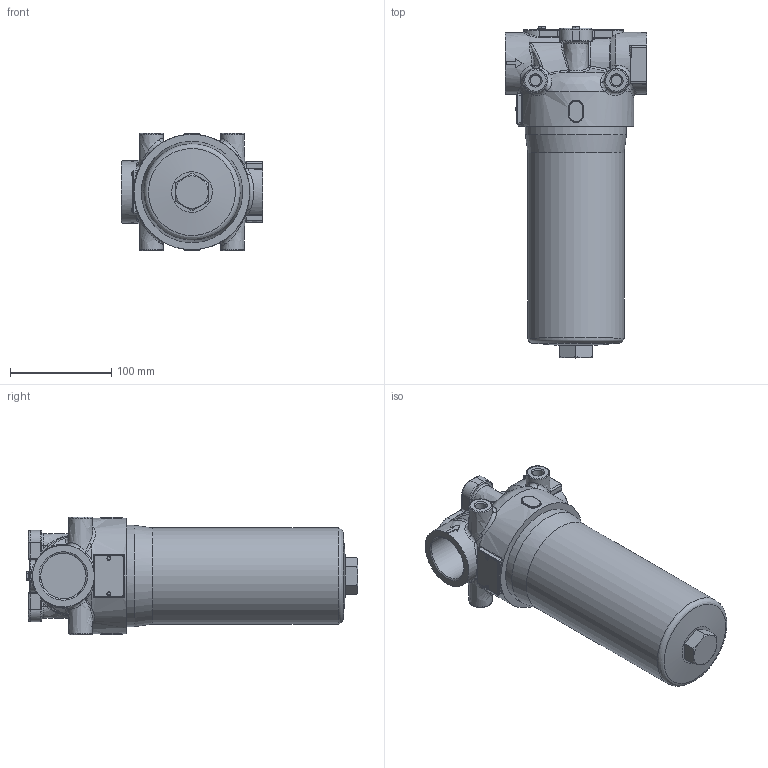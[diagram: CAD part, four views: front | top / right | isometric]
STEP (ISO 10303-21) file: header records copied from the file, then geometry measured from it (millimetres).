
FILE_DESCRIPTION((''),'2;1');
FILE_NAME('U:\Users\t.schleuter\D_232-286.stp','2013-05-13T15:15:28', ('User'),('SDRC'),'I-DEAS Master Series 9','UNIX','Yes');
FILE_SCHEMA(('AUTOMOTIVE_DESIGN { 1 0 10303 214 1 1 1 1 }'));
Length unit declared in the file: millimetre
Products named in the file (1): 13856300(234517)
Bounding box: 140 x 327.9 x 116 mm (x, y, z)
Volume: 2389409.3 mm3; surface area: 141671.3 mm2
Topology: 1 solids, 7 shells, 458 faces, 1066 edges, 637 vertices
Faces by surface type: bspline 458
Entity records: 19045 total; most frequent: CARTESIAN_POINT 13008, ORIENTED_EDGE 2096, EDGE_CURVE 1048, VERTEX_POINT 632, B_SPLINE_CURVE_WITH_KNOTS 495, EDGE_LOOP 494, FACE_OUTER_BOUND 458, ADVANCED_FACE 458
